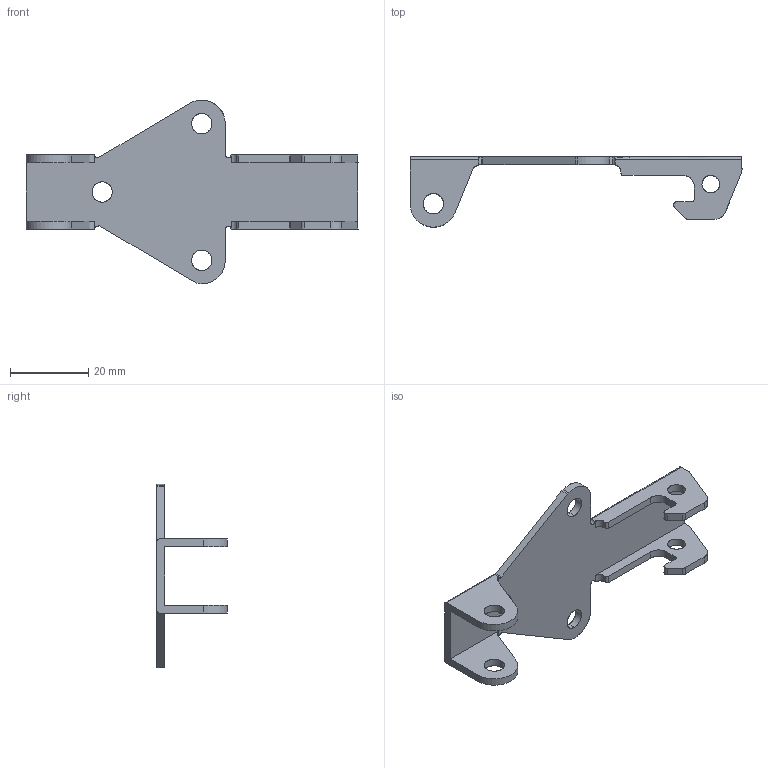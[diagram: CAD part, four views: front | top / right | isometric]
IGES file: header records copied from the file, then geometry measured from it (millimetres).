
Start section: SolidWorks IGES FILE using analytic representation for surfaces
Global section: file name: C:\Documents and Settings\lecoutey\Bureau\GR 2003\2003.020.10.IGS; native system: SolidWorks 2004 by SolidWorks Corporation; preprocessor: Version 5.3; author: lecoutey; date: 050405.094429; units: millimetre
Bounding box: 85 x 18 x 47 mm (x, y, z)
Surface area: 6521.4 mm2 (no closed solid volume)
Topology: 0 solids, 0 shells, 87 faces, 1258 edges, 1258 vertices
Faces by surface type: revolution 49, bspline 38
